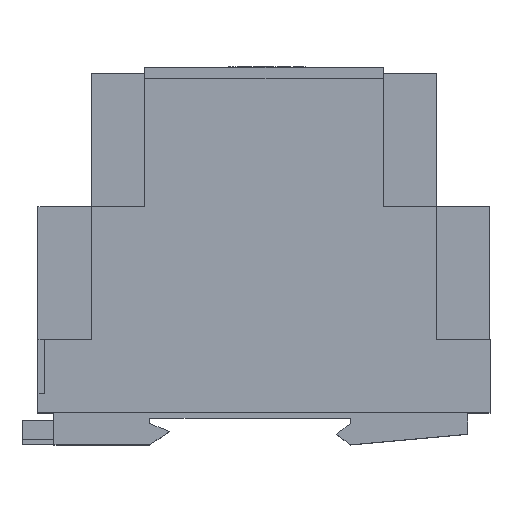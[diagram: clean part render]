
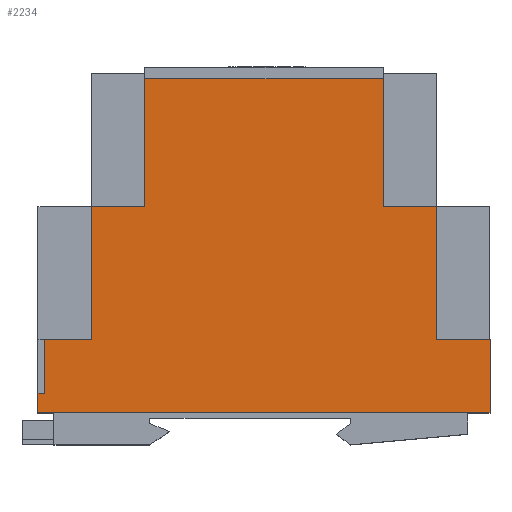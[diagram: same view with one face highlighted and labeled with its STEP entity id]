
A CAD part, top view. The second image highlights one B-rep face of the part: STEP entity #2234.
In plain terms, the highlighted planar face has unit normal (0, 0, 1).
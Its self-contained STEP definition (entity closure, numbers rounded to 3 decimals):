
#11 = ORIENTED_EDGE ( 'NONE', *, *, #12483, .F. ) ;
#40 = CARTESIAN_POINT ( 'NONE',  ( 0., 13.7, 1.3 ) ) ;
#97 = DIRECTION ( 'NONE',  ( 0., 1., 0. ) ) ;
#324 = CARTESIAN_POINT ( 'NONE',  ( -64.8, 38.7, 1.3 ) ) ;
#334 = EDGE_CURVE ( 'NONE', #10119, #2120, #1649, .T. ) ;
#520 = VECTOR ( 'NONE', #6360, 1000. ) ;
#672 = CARTESIAN_POINT ( 'NONE',  ( -83.5, 13.7, 1.3 ) ) ;
#930 = VECTOR ( 'NONE', #8120, 1000. ) ;
#1006 = VERTEX_POINT ( 'NONE', #672 ) ;
#1269 = CARTESIAN_POINT ( 'NONE',  ( -84.8, 3.7, 1.3 ) ) ;
#1408 = EDGE_CURVE ( 'NONE', #13727, #6407, #7307, .T. ) ;
#1433 = VECTOR ( 'NONE', #5974, 1000. ) ;
#1469 = CARTESIAN_POINT ( 'NONE',  ( -20., 62.7, 1.3 ) ) ;
#1530 = EDGE_LOOP ( 'NONE', ( #11220, #11, #12468, #1772, #11184, #7570, #14219, #12670, #12088, #6973, #6106, #4894, #11581, #5126 ) ) ;
#1561 = DIRECTION ( 'NONE',  ( 1., 0., 0. ) ) ;
#1643 = DIRECTION ( 'NONE',  ( 1., 0., 0. ) ) ;
#1649 = LINE ( 'NONE', #5012, #14785 ) ;
#1759 = FACE_OUTER_BOUND ( 'NONE', #1530, .T. ) ;
#1772 = ORIENTED_EDGE ( 'NONE', *, *, #2396, .F. ) ;
#1811 = LINE ( 'NONE', #9296, #9270 ) ;
#2120 = VERTEX_POINT ( 'NONE', #324 ) ;
#2234 = ADVANCED_FACE ( 'NONE', ( #1759 ), #3833, .T. ) ;
#2350 = DIRECTION ( 'NONE',  ( 0., -1., 0. ) ) ;
#2396 = EDGE_CURVE ( 'NONE', #13245, #5852, #9227, .T. ) ;
#2768 = CARTESIAN_POINT ( 'NONE',  ( -74.8, 0., 1.3 ) ) ;
#3025 = VERTEX_POINT ( 'NONE', #11684 ) ;
#3182 = EDGE_CURVE ( 'NONE', #2120, #4497, #9130, .T. ) ;
#3338 = CARTESIAN_POINT ( 'NONE',  ( -84.8, 0., 1.3 ) ) ;
#3382 = CARTESIAN_POINT ( 'NONE',  ( -20., 38.7, 1.3 ) ) ;
#3521 = CARTESIAN_POINT ( 'NONE',  ( -84.8, 0., 1.3 ) ) ;
#3717 = DIRECTION ( 'NONE',  ( 0., -1., 0. ) ) ;
#3833 = PLANE ( 'NONE',  #14980 ) ;
#3922 = CARTESIAN_POINT ( 'NONE',  ( 0., 0., 1.3 ) ) ;
#4015 = VECTOR ( 'NONE', #3717, 1000. ) ;
#4045 = LINE ( 'NONE', #2768, #5517 ) ;
#4497 = VERTEX_POINT ( 'NONE', #7720 ) ;
#4553 = EDGE_CURVE ( 'NONE', #3025, #15004, #1811, .T. ) ;
#4652 = CARTESIAN_POINT ( 'NONE',  ( 0., 0., 1.3 ) ) ;
#4733 = EDGE_CURVE ( 'NONE', #1006, #11911, #14940, .T. ) ;
#4894 = ORIENTED_EDGE ( 'NONE', *, *, #8720, .F. ) ;
#4967 = DIRECTION ( 'NONE',  ( 0., 1., 0. ) ) ;
#5012 = CARTESIAN_POINT ( 'NONE',  ( 0., 38.7, 1.3 ) ) ;
#5065 = LINE ( 'NONE', #40, #9257 ) ;
#5126 = ORIENTED_EDGE ( 'NONE', *, *, #8544, .F. ) ;
#5330 = EDGE_CURVE ( 'NONE', #5852, #11649, #6878, .T. ) ;
#5517 = VECTOR ( 'NONE', #4967, 1000. ) ;
#5586 = CARTESIAN_POINT ( 'NONE',  ( -83.5, 3.7, 1.3 ) ) ;
#5702 = CARTESIAN_POINT ( 'NONE',  ( -74.8, 38.7, 1.3 ) ) ;
#5793 = VECTOR ( 'NONE', #9095, 1000. ) ;
#5852 = VERTEX_POINT ( 'NONE', #12620 ) ;
#5859 = EDGE_CURVE ( 'NONE', #4497, #6499, #12922, .T. ) ;
#5912 = VERTEX_POINT ( 'NONE', #3382 ) ;
#5974 = DIRECTION ( 'NONE',  ( 1., 0., 0. ) ) ;
#6086 = EDGE_CURVE ( 'NONE', #5912, #13727, #14755, .T. ) ;
#6106 = ORIENTED_EDGE ( 'NONE', *, *, #334, .F. ) ;
#6360 = DIRECTION ( 'NONE',  ( -1., 0., 0. ) ) ;
#6407 = VERTEX_POINT ( 'NONE', #11677 ) ;
#6499 = VERTEX_POINT ( 'NONE', #1469 ) ;
#6643 = CARTESIAN_POINT ( 'NONE',  ( 0., 62.7, 1.3 ) ) ;
#6708 = CARTESIAN_POINT ( 'NONE',  ( 0., 13.7, 1.3 ) ) ;
#6878 = LINE ( 'NONE', #3922, #520 ) ;
#6973 = ORIENTED_EDGE ( 'NONE', *, *, #3182, .F. ) ;
#7180 = CARTESIAN_POINT ( 'NONE',  ( -10., 0., 1.3 ) ) ;
#7307 = LINE ( 'NONE', #7180, #4015 ) ;
#7353 = LINE ( 'NONE', #10664, #14661 ) ;
#7570 = ORIENTED_EDGE ( 'NONE', *, *, #1408, .F. ) ;
#7720 = CARTESIAN_POINT ( 'NONE',  ( -64.8, 62.7, 1.3 ) ) ;
#7841 = EDGE_CURVE ( 'NONE', #6499, #5912, #7353, .T. ) ;
#8120 = DIRECTION ( 'NONE',  ( 0., 1., 0. ) ) ;
#8172 = DIRECTION ( 'NONE',  ( -1., 0., 0. ) ) ;
#8417 = VECTOR ( 'NONE', #13797, 1000. ) ;
#8544 = EDGE_CURVE ( 'NONE', #3025, #1006, #14086, .T. ) ;
#8688 = VECTOR ( 'NONE', #2350, 1000. ) ;
#8720 = EDGE_CURVE ( 'NONE', #11911, #10119, #4045, .T. ) ;
#9095 = DIRECTION ( 'NONE',  ( 1., 0., 0. ) ) ;
#9101 = VECTOR ( 'NONE', #1561, 1000. ) ;
#9130 = LINE ( 'NONE', #12883, #930 ) ;
#9227 = LINE ( 'NONE', #4652, #8688 ) ;
#9257 = VECTOR ( 'NONE', #12805, 1000. ) ;
#9270 = VECTOR ( 'NONE', #8172, 1000. ) ;
#9296 = CARTESIAN_POINT ( 'NONE',  ( -83.5, 3.7, 1.3 ) ) ;
#9551 = CARTESIAN_POINT ( 'NONE',  ( 0., 38.7, 1.3 ) ) ;
#9849 = DIRECTION ( 'NONE',  ( 1., 0., 0. ) ) ;
#10119 = VERTEX_POINT ( 'NONE', #5702 ) ;
#10664 = CARTESIAN_POINT ( 'NONE',  ( -20., 0., 1.3 ) ) ;
#11184 = ORIENTED_EDGE ( 'NONE', *, *, #12872, .F. ) ;
#11220 = ORIENTED_EDGE ( 'NONE', *, *, #4553, .T. ) ;
#11581 = ORIENTED_EDGE ( 'NONE', *, *, #4733, .F. ) ;
#11649 = VERTEX_POINT ( 'NONE', #3338 ) ;
#11662 = CARTESIAN_POINT ( 'NONE',  ( -10., 38.7, 1.3 ) ) ;
#11677 = CARTESIAN_POINT ( 'NONE',  ( -10., 13.7, 1.3 ) ) ;
#11684 = CARTESIAN_POINT ( 'NONE',  ( -83.5, 3.7, 1.3 ) ) ;
#11911 = VERTEX_POINT ( 'NONE', #13891 ) ;
#11975 = DIRECTION ( 'NONE',  ( 0., -1., 0. ) ) ;
#12006 = CARTESIAN_POINT ( 'NONE',  ( 0., 0., 1.3 ) ) ;
#12088 = ORIENTED_EDGE ( 'NONE', *, *, #5859, .F. ) ;
#12468 = ORIENTED_EDGE ( 'NONE', *, *, #5330, .F. ) ;
#12483 = EDGE_CURVE ( 'NONE', #11649, #15004, #13495, .T. ) ;
#12620 = CARTESIAN_POINT ( 'NONE',  ( 0., 0., 1.3 ) ) ;
#12670 = ORIENTED_EDGE ( 'NONE', *, *, #7841, .F. ) ;
#12805 = DIRECTION ( 'NONE',  ( 1., 0., 0. ) ) ;
#12872 = EDGE_CURVE ( 'NONE', #6407, #13245, #5065, .T. ) ;
#12883 = CARTESIAN_POINT ( 'NONE',  ( -64.8, 0., 1.3 ) ) ;
#12922 = LINE ( 'NONE', #6643, #5793 ) ;
#13233 = DIRECTION ( 'NONE',  ( 0., 0., 1. ) ) ;
#13245 = VERTEX_POINT ( 'NONE', #6708 ) ;
#13495 = LINE ( 'NONE', #3521, #13847 ) ;
#13727 = VERTEX_POINT ( 'NONE', #11662 ) ;
#13797 = DIRECTION ( 'NONE',  ( 0., 1., 0. ) ) ;
#13847 = VECTOR ( 'NONE', #97, 1000. ) ;
#13891 = CARTESIAN_POINT ( 'NONE',  ( -74.8, 13.7, 1.3 ) ) ;
#14086 = LINE ( 'NONE', #5586, #8417 ) ;
#14219 = ORIENTED_EDGE ( 'NONE', *, *, #6086, .F. ) ;
#14306 = CARTESIAN_POINT ( 'NONE',  ( 0., 13.7, 1.3 ) ) ;
#14661 = VECTOR ( 'NONE', #11975, 1000. ) ;
#14755 = LINE ( 'NONE', #9551, #1433 ) ;
#14785 = VECTOR ( 'NONE', #9849, 1000. ) ;
#14940 = LINE ( 'NONE', #14306, #9101 ) ;
#14980 = AXIS2_PLACEMENT_3D ( 'NONE', #12006, #13233, #1643 ) ;
#15004 = VERTEX_POINT ( 'NONE', #1269 ) ;
